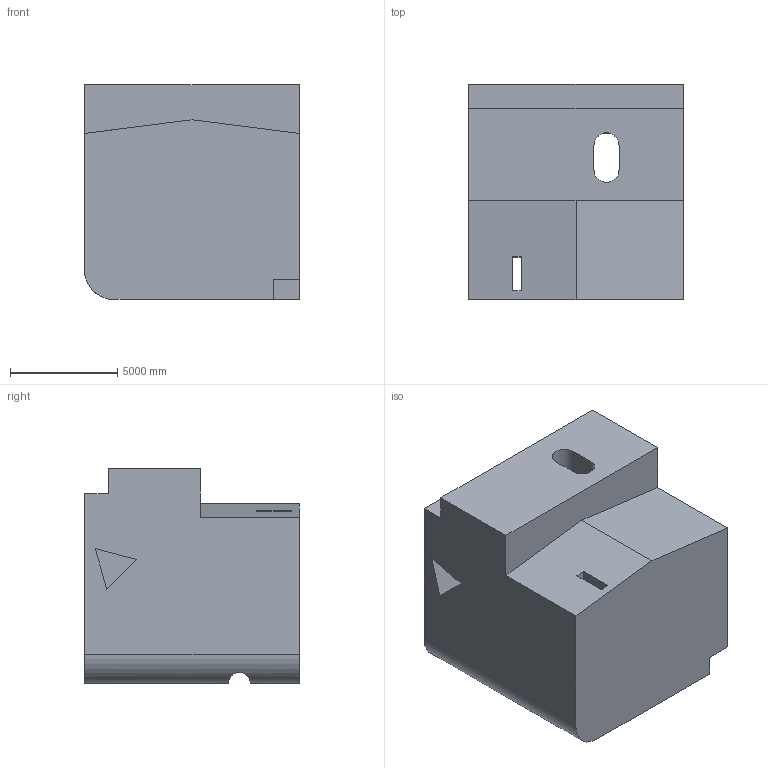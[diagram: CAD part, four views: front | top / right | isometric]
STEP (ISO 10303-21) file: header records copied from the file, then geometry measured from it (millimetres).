
FILE_DESCRIPTION (( 'STEP AP203' ), '1' );
FILE_NAME ('180.STEP', '2022-09-06T13:34:47', ( 'user' ), ( '' ), 'SwSTEP 2.0', 'SolidWorks 2021', '' );
FILE_SCHEMA (( 'CONFIG_CONTROL_DESIGN' ));
Length unit declared in the file: centimetre
Products named in the file (1): 180
Bounding box: 10000 x 10000 x 10000 mm (x, y, z)
Volume: 840818852947.9 mm3; surface area: 714360330.4 mm2
Topology: 1 solids, 1 shells, 35 faces, 90 edges, 60 vertices
Faces by surface type: plane 27, cylinder 8
Entity records: 1301 total; most frequent: CARTESIAN_POINT 345, ORIENTED_EDGE 180, DIRECTION 176, EDGE_CURVE 90, LINE 74, VECTOR 74, VERTEX_POINT 60, AXIS2_PLACEMENT_3D 51
